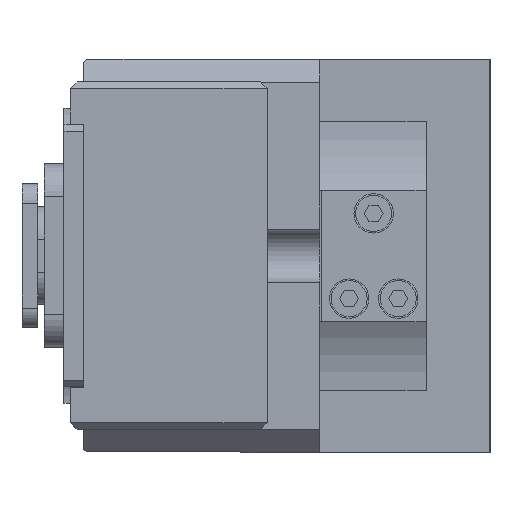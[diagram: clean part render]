
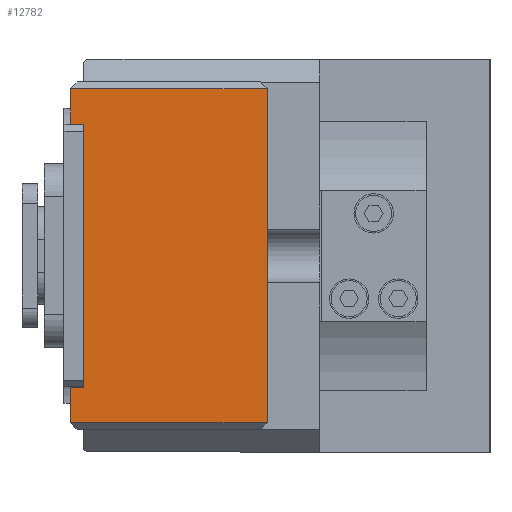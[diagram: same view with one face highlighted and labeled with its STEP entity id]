
A CAD part, left-side view. The second image highlights one B-rep face of the part: STEP entity #12782.
In plain terms, the highlighted planar face has unit normal (-1, 0, 0).
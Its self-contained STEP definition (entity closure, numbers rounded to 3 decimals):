
#545 = CARTESIAN_POINT ( 'NONE',  ( 54.8, 20.05, 62. ) ) ;
#619 = VERTEX_POINT ( 'NONE', #17538 ) ;
#835 = DIRECTION ( 'NONE',  ( 0., 0., 1. ) ) ;
#1059 = CARTESIAN_POINT ( 'NONE',  ( 54.8, 25.5, 64. ) ) ;
#1786 = DIRECTION ( 'NONE',  ( 0., -1., 0. ) ) ;
#1941 = CARTESIAN_POINT ( 'NONE',  ( 54.8, 25.5, 62. ) ) ;
#2948 = EDGE_CURVE ( 'NONE', #8047, #13182, #18812, .T. ) ;
#3850 = DIRECTION ( 'NONE',  ( 0., 1., 0. ) ) ;
#4087 = CARTESIAN_POINT ( 'NONE',  ( 54.8, 20.05, 62. ) ) ;
#4166 = ORIENTED_EDGE ( 'NONE', *, *, #14068, .F. ) ;
#4420 = VECTOR ( 'NONE', #3850, 1000. ) ;
#4573 = ORIENTED_EDGE ( 'NONE', *, *, #20558, .F. ) ;
#4663 = FACE_OUTER_BOUND ( 'NONE', #8742, .T. ) ;
#4929 = CARTESIAN_POINT ( 'NONE',  ( 54.8, -25.5, 34. ) ) ;
#4936 = CARTESIAN_POINT ( 'NONE',  ( 54.8, 0., 64. ) ) ;
#4939 = LINE ( 'NONE', #21508, #9711 ) ;
#5289 = VERTEX_POINT ( 'NONE', #545 ) ;
#5642 = CARTESIAN_POINT ( 'NONE',  ( 54.8, -23.5, 34. ) ) ;
#6146 = EDGE_CURVE ( 'NONE', #619, #5289, #13220, .T. ) ;
#6193 = VECTOR ( 'NONE', #1786, 1000. ) ;
#6237 = DIRECTION ( 'NONE',  ( 0., 0., -1. ) ) ;
#7173 = DIRECTION ( 'NONE',  ( 1., 0., 0. ) ) ;
#7194 = VERTEX_POINT ( 'NONE', #11464 ) ;
#7370 = VERTEX_POINT ( 'NONE', #10578 ) ;
#8047 = VERTEX_POINT ( 'NONE', #4929 ) ;
#8323 = CARTESIAN_POINT ( 'NONE',  ( 54.8, 25.5, 34. ) ) ;
#8531 = EDGE_CURVE ( 'NONE', #7194, #19816, #19741, .T. ) ;
#8742 = EDGE_LOOP ( 'NONE', ( #4166, #11732, #14997, #4573, #18863, #12325, #10250, #18158 ) ) ;
#8856 = DIRECTION ( 'NONE',  ( 0., -1., 0. ) ) ;
#9276 = VECTOR ( 'NONE', #14606, 1000. ) ;
#9711 = VECTOR ( 'NONE', #8856, 1000. ) ;
#9854 = LINE ( 'NONE', #1941, #9276 ) ;
#10250 = ORIENTED_EDGE ( 'NONE', *, *, #20620, .F. ) ;
#10578 = CARTESIAN_POINT ( 'NONE',  ( 54.8, -25.5, 64. ) ) ;
#10706 = PLANE ( 'NONE',  #14396 ) ;
#11030 = VECTOR ( 'NONE', #19379, 1000. ) ;
#11464 = CARTESIAN_POINT ( 'NONE',  ( 54.8, -20.05, 62. ) ) ;
#11563 = LINE ( 'NONE', #17931, #6193 ) ;
#11732 = ORIENTED_EDGE ( 'NONE', *, *, #19439, .F. ) ;
#12325 = ORIENTED_EDGE ( 'NONE', *, *, #17993, .F. ) ;
#12522 = VERTEX_POINT ( 'NONE', #1059 ) ;
#12782 = ADVANCED_FACE ( 'NONE', ( #4663 ), #10706, .F. ) ;
#13182 = VERTEX_POINT ( 'NONE', #8323 ) ;
#13220 = LINE ( 'NONE', #4087, #18009 ) ;
#13497 = CARTESIAN_POINT ( 'NONE',  ( 54.8, -20.05, 62. ) ) ;
#14068 = EDGE_CURVE ( 'NONE', #7370, #8047, #19030, .T. ) ;
#14230 = VECTOR ( 'NONE', #6237, 1000. ) ;
#14396 = AXIS2_PLACEMENT_3D ( 'NONE', #17972, #7173, #19793 ) ;
#14606 = DIRECTION ( 'NONE',  ( 0., 0., 1. ) ) ;
#14997 = ORIENTED_EDGE ( 'NONE', *, *, #8531, .F. ) ;
#17538 = CARTESIAN_POINT ( 'NONE',  ( 54.8, 20.05, 64. ) ) ;
#17931 = CARTESIAN_POINT ( 'NONE',  ( 54.8, 0., 62. ) ) ;
#17972 = CARTESIAN_POINT ( 'NONE',  ( 54.8, 0., 62. ) ) ;
#17993 = EDGE_CURVE ( 'NONE', #12522, #619, #4939, .T. ) ;
#18009 = VECTOR ( 'NONE', #19860, 1000. ) ;
#18158 = ORIENTED_EDGE ( 'NONE', *, *, #2948, .F. ) ;
#18812 = LINE ( 'NONE', #5642, #4420 ) ;
#18863 = ORIENTED_EDGE ( 'NONE', *, *, #6146, .F. ) ;
#18865 = CARTESIAN_POINT ( 'NONE',  ( 54.8, -25.5, 62. ) ) ;
#19030 = LINE ( 'NONE', #18865, #14230 ) ;
#19169 = VECTOR ( 'NONE', #835, 1000. ) ;
#19379 = DIRECTION ( 'NONE',  ( 0., -1., 0. ) ) ;
#19439 = EDGE_CURVE ( 'NONE', #19816, #7370, #20654, .T. ) ;
#19741 = LINE ( 'NONE', #13497, #19169 ) ;
#19793 = DIRECTION ( 'NONE',  ( 0., 0., -1. ) ) ;
#19816 = VERTEX_POINT ( 'NONE', #20301 ) ;
#19860 = DIRECTION ( 'NONE',  ( 0., 0., -1. ) ) ;
#20301 = CARTESIAN_POINT ( 'NONE',  ( 54.8, -20.05, 64. ) ) ;
#20558 = EDGE_CURVE ( 'NONE', #5289, #7194, #11563, .T. ) ;
#20620 = EDGE_CURVE ( 'NONE', #13182, #12522, #9854, .T. ) ;
#20654 = LINE ( 'NONE', #4936, #11030 ) ;
#21508 = CARTESIAN_POINT ( 'NONE',  ( 54.8, 0., 64. ) ) ;
